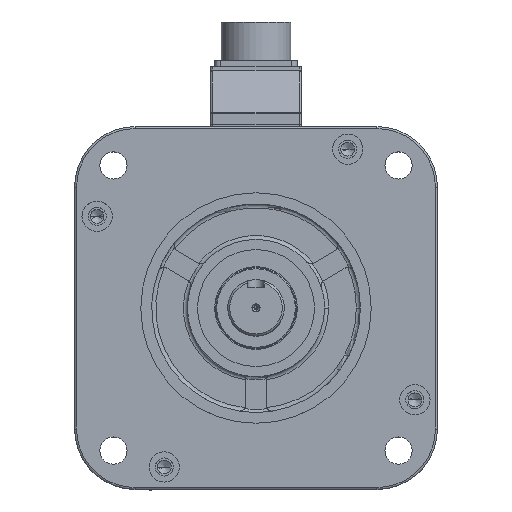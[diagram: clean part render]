
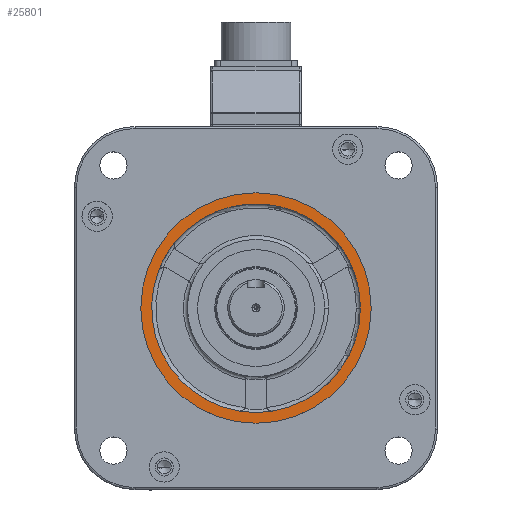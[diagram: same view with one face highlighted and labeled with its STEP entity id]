
A CAD part, top view. The second image highlights one B-rep face of the part: STEP entity #25801.
In plain terms, the highlighted planar face has unit normal (0, 0, 1).
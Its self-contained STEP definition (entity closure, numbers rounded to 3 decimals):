
#1637 = ORIENTED_EDGE ( 'NONE', *, *, #38527, .T. ) ;
#3483 = CARTESIAN_POINT ( 'NONE',  ( 51.75, 0., 21. ) ) ;
#4383 = ORIENTED_EDGE ( 'NONE', *, *, #10246, .F. ) ;
#4531 = VERTEX_POINT ( 'NONE', #17923 ) ;
#5117 = DIRECTION ( 'NONE',  ( 1., 0., 0. ) ) ;
#7716 = DIRECTION ( 'NONE',  ( 0., 0., 1. ) ) ;
#8089 = VERTEX_POINT ( 'NONE', #17569 ) ;
#9126 = VERTEX_POINT ( 'NONE', #21167 ) ;
#9955 = VERTEX_POINT ( 'NONE', #20954 ) ;
#10246 = EDGE_CURVE ( 'NONE', #8089, #48110, #35550, .T. ) ;
#10264 = DIRECTION ( 'NONE',  ( 1., 0., 0. ) ) ;
#11916 = CARTESIAN_POINT ( 'NONE',  ( 0., 0., 21. ) ) ;
#12910 = EDGE_CURVE ( 'NONE', #9126, #23334, #25773, .T. ) ;
#13200 = CARTESIAN_POINT ( 'NONE',  ( 0., 0., 21. ) ) ;
#13221 = DIRECTION ( 'NONE',  ( 0., 0., 1. ) ) ;
#13300 = DIRECTION ( 'NONE',  ( 0., 0., 1. ) ) ;
#14471 = CARTESIAN_POINT ( 'NONE',  ( 0., 0., 21. ) ) ;
#16700 = DIRECTION ( 'NONE',  ( 1., 0., 0. ) ) ;
#17025 = VERTEX_POINT ( 'NONE', #33484 ) ;
#17569 = CARTESIAN_POINT ( 'NONE',  ( 8.492, -51.048, 21. ) ) ;
#17726 = AXIS2_PLACEMENT_3D ( 'NONE', #54523, #13221, #48614 ) ;
#17923 = CARTESIAN_POINT ( 'NONE',  ( -8.492, -51.048, 21. ) ) ;
#19431 = ORIENTED_EDGE ( 'NONE', *, *, #31470, .F. ) ;
#19603 = ORIENTED_EDGE ( 'NONE', *, *, #48894, .F. ) ;
#20954 = CARTESIAN_POINT ( 'NONE',  ( 48.455, 18.17, 21. ) ) ;
#21167 = CARTESIAN_POINT ( 'NONE',  ( 57.15, 0., 21. ) ) ;
#21266 = ORIENTED_EDGE ( 'NONE', *, *, #55734, .F. ) ;
#21422 = FACE_OUTER_BOUND ( 'NONE', #44838, .T. ) ;
#21602 = CIRCLE ( 'NONE', #30253, 51.75 ) ;
#22180 = ORIENTED_EDGE ( 'NONE', *, *, #48242, .F. ) ;
#22961 = CIRCLE ( 'NONE', #51618, 51.75 ) ;
#23334 = VERTEX_POINT ( 'NONE', #32229 ) ;
#23724 = DIRECTION ( 'NONE',  ( 0., 0., 1. ) ) ;
#23810 = CIRCLE ( 'NONE', #52476, 51.75 ) ;
#25009 = VERTEX_POINT ( 'NONE', #52772 ) ;
#25773 = CIRCLE ( 'NONE', #48707, 57.15 ) ;
#25801 = ADVANCED_FACE ( 'NONE', ( #40267, #21422 ), #57942, .T. ) ;
#27118 = AXIS2_PLACEMENT_3D ( 'NONE', #36905, #23724, #59047 ) ;
#28205 = CARTESIAN_POINT ( 'NONE',  ( 0., 0., 21. ) ) ;
#28600 = ORIENTED_EDGE ( 'NONE', *, *, #12910, .T. ) ;
#28809 = DIRECTION ( 'NONE',  ( 1., 0., 0. ) ) ;
#29977 = AXIS2_PLACEMENT_3D ( 'NONE', #34831, #53382, #57592 ) ;
#29981 = VERTEX_POINT ( 'NONE', #58695 ) ;
#30253 = AXIS2_PLACEMENT_3D ( 'NONE', #45905, #13300, #58208 ) ;
#30583 = AXIS2_PLACEMENT_3D ( 'NONE', #45034, #34587, #53429 ) ;
#30997 = AXIS2_PLACEMENT_3D ( 'NONE', #14471, #51555, #28809 ) ;
#31090 = CIRCLE ( 'NONE', #17726, 51.75 ) ;
#31470 = EDGE_CURVE ( 'NONE', #25009, #29981, #36695, .T. ) ;
#32229 = CARTESIAN_POINT ( 'NONE',  ( -57.15, 0., 21. ) ) ;
#32689 = DIRECTION ( 'NONE',  ( 0., 0., 1. ) ) ;
#33484 = CARTESIAN_POINT ( 'NONE',  ( -48.455, 18.17, 21. ) ) ;
#34587 = DIRECTION ( 'NONE',  ( 0., 0., 1. ) ) ;
#34831 = CARTESIAN_POINT ( 'NONE',  ( 0., 0., 21. ) ) ;
#35550 = CIRCLE ( 'NONE', #52765, 51.75 ) ;
#35793 = DIRECTION ( 'NONE',  ( 0., 0., 1. ) ) ;
#36542 = DIRECTION ( 'NONE',  ( 0., 0., 1. ) ) ;
#36695 = CIRCLE ( 'NONE', #27118, 51.75 ) ;
#36736 = CIRCLE ( 'NONE', #30997, 51.75 ) ;
#36905 = CARTESIAN_POINT ( 'NONE',  ( 0., 0., 21. ) ) ;
#38527 = EDGE_CURVE ( 'NONE', #23334, #9126, #48152, .T. ) ;
#39897 = ORIENTED_EDGE ( 'NONE', *, *, #42691, .F. ) ;
#40267 = FACE_BOUND ( 'NONE', #44291, .T. ) ;
#40580 = CARTESIAN_POINT ( 'NONE',  ( 0., 0., 21. ) ) ;
#42691 = EDGE_CURVE ( 'NONE', #29981, #17025, #36736, .T. ) ;
#44291 = EDGE_LOOP ( 'NONE', ( #19603, #21266, #4383, #22180, #45476, #39897, #19431 ) ) ;
#44572 = EDGE_CURVE ( 'NONE', #17025, #4531, #21602, .T. ) ;
#44838 = EDGE_LOOP ( 'NONE', ( #1637, #28600 ) ) ;
#45034 = CARTESIAN_POINT ( 'NONE',  ( 0., 0., 21. ) ) ;
#45476 = ORIENTED_EDGE ( 'NONE', *, *, #44572, .F. ) ;
#45905 = CARTESIAN_POINT ( 'NONE',  ( 0., 0., 21. ) ) ;
#48110 = VERTEX_POINT ( 'NONE', #3483 ) ;
#48152 = CIRCLE ( 'NONE', #29977, 57.15 ) ;
#48242 = EDGE_CURVE ( 'NONE', #4531, #8089, #23810, .T. ) ;
#48614 = DIRECTION ( 'NONE',  ( 1., 0., 0. ) ) ;
#48707 = AXIS2_PLACEMENT_3D ( 'NONE', #13200, #36542, #5117 ) ;
#48894 = EDGE_CURVE ( 'NONE', #9955, #25009, #22961, .T. ) ;
#51555 = DIRECTION ( 'NONE',  ( 0., 0., 1. ) ) ;
#51618 = AXIS2_PLACEMENT_3D ( 'NONE', #28205, #32689, #10264 ) ;
#52476 = AXIS2_PLACEMENT_3D ( 'NONE', #40580, #35793, #54054 ) ;
#52765 = AXIS2_PLACEMENT_3D ( 'NONE', #11916, #7716, #16700 ) ;
#52772 = CARTESIAN_POINT ( 'NONE',  ( 39.963, 32.879, 21. ) ) ;
#53382 = DIRECTION ( 'NONE',  ( 0., 0., 1. ) ) ;
#53429 = DIRECTION ( 'NONE',  ( 1., 0., 0. ) ) ;
#54054 = DIRECTION ( 'NONE',  ( 1., 0., 0. ) ) ;
#54523 = CARTESIAN_POINT ( 'NONE',  ( 0., 0., 21. ) ) ;
#55734 = EDGE_CURVE ( 'NONE', #48110, #9955, #31090, .T. ) ;
#57592 = DIRECTION ( 'NONE',  ( 1., 0., 0. ) ) ;
#57942 = PLANE ( 'NONE',  #30583 ) ;
#58208 = DIRECTION ( 'NONE',  ( 1., 0., 0. ) ) ;
#58695 = CARTESIAN_POINT ( 'NONE',  ( -39.963, 32.879, 21. ) ) ;
#59047 = DIRECTION ( 'NONE',  ( 1., 0., 0. ) ) ;
